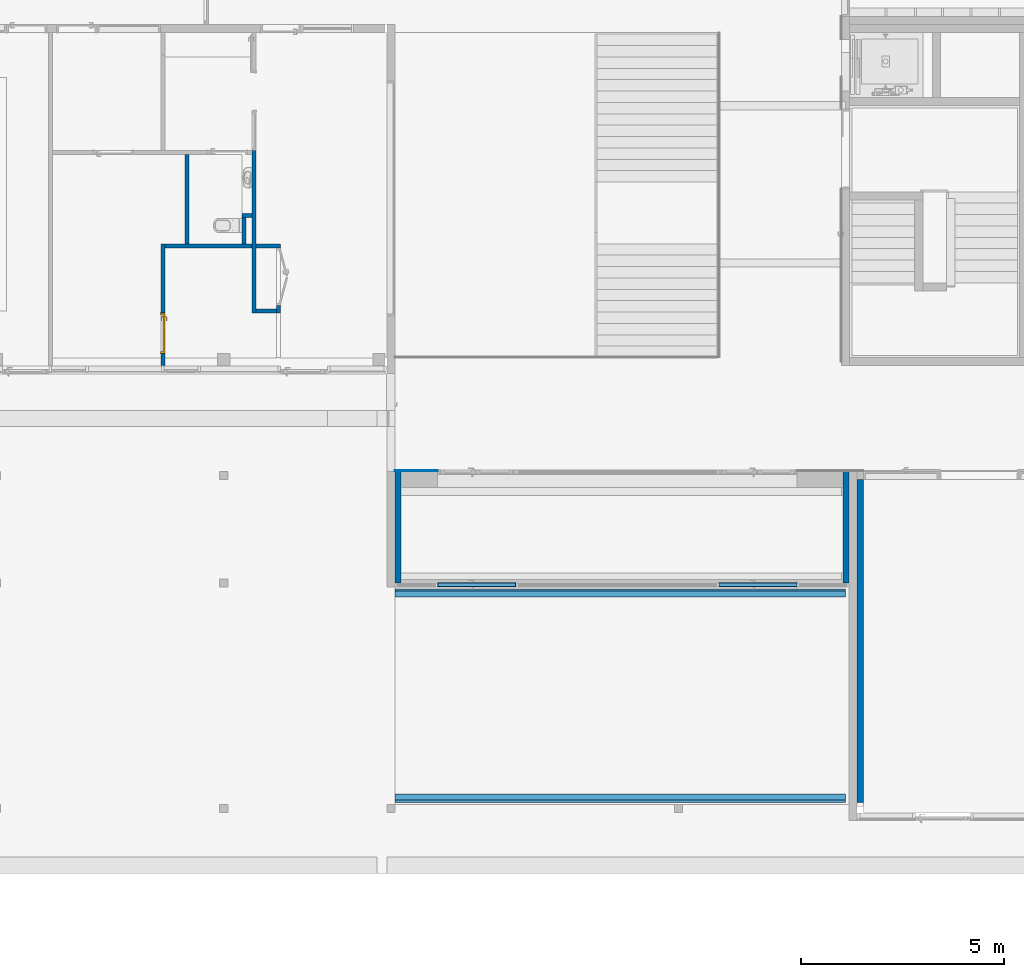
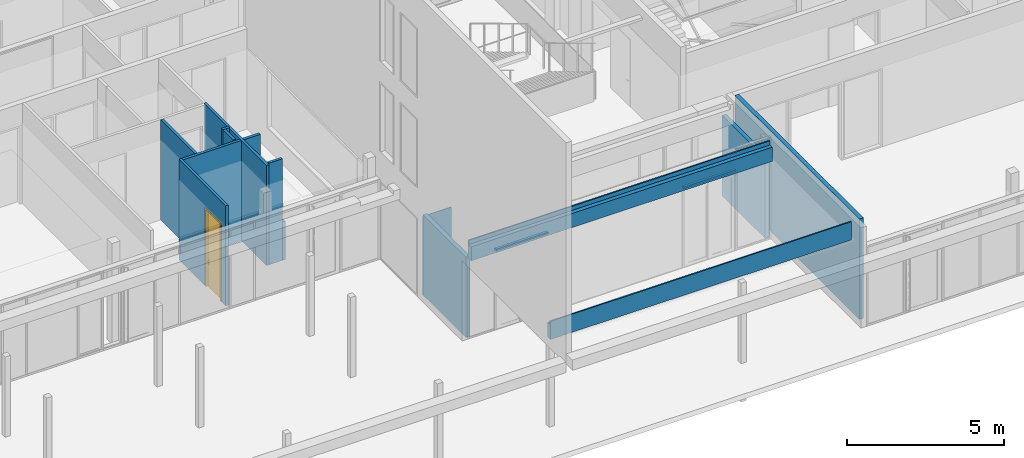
# One storey, part 144 of 240: 15 walls, 1 door, 3 openings.
"""IFC2X3 building model written with IfcOpenShell, lengths in centimetres."""

from ifc_helpers import new_model, entity, si_unit, converted_unit, derived_unit, direction, frame, frame_2d, origin, place, context, subcontext, project, spatial, polyline, rectangle, extrude, clip, bounded_halfspace, faceted_brep, source, transform, mapped, material, material_list, layer, layer_set, layer_usage, type_object, type_shapes, element, fill, save


model = new_model("IFC2X3")

# Units and contexts
model_context = context("Model", 3, precision=0.001, world=origin(), true_north=direction((6.12303176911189e-17, 1.0)))
body_context = subcontext(model_context, "Body", "Model", "MODEL_VIEW")
ifc_project = project(units=[si_unit("LENGTHUNIT", "METRE", prefix="CENTI"), si_unit("AREAUNIT", "SQUARE_METRE"), si_unit("VOLUMEUNIT", "CUBIC_METRE"), converted_unit("PLANEANGLEUNIT", "DEGREE", entity("IfcRatioMeasure", 0.0174532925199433), si_unit("PLANEANGLEUNIT", "RADIAN"), dimensions=[0, 0, 0, 0, 0, 0, 0]), si_unit("MASSUNIT", "GRAM", prefix="KILO"), derived_unit("MASSDENSITYUNIT", [(si_unit("MASSUNIT", "GRAM", prefix="KILO"), 1), (si_unit("LENGTHUNIT", "METRE"), -3)]), si_unit("TIMEUNIT", "SECOND"), si_unit("FREQUENCYUNIT", "HERTZ"), si_unit("THERMODYNAMICTEMPERATUREUNIT", "DEGREE_CELSIUS"), derived_unit("THERMALTRANSMITTANCEUNIT", [(si_unit("MASSUNIT", "GRAM", prefix="KILO"), 1), (si_unit("THERMODYNAMICTEMPERATUREUNIT", "KELVIN"), -1), (si_unit("TIMEUNIT", "SECOND"), -3)]), derived_unit("VOLUMETRICFLOWRATEUNIT", [(si_unit("LENGTHUNIT", "METRE"), 3), (si_unit("TIMEUNIT", "SECOND"), -1)]), si_unit("ELECTRICCURRENTUNIT", "AMPERE"), si_unit("ELECTRICVOLTAGEUNIT", "VOLT"), si_unit("POWERUNIT", "WATT"), si_unit("FORCEUNIT", "NEWTON", prefix="KILO"), si_unit("ILLUMINANCEUNIT", "LUX"), si_unit("LUMINOUSFLUXUNIT", "LUMEN"), si_unit("LUMINOUSINTENSITYUNIT", "CANDELA"), derived_unit("USERDEFINED", [(si_unit("MASSUNIT", "GRAM", prefix="KILO"), -1), (si_unit("LENGTHUNIT", "METRE"), -2), (si_unit("TIMEUNIT", "SECOND"), 3), (si_unit("LUMINOUSFLUXUNIT", "LUMEN"), 1)]), derived_unit("LINEARVELOCITYUNIT", [(si_unit("LENGTHUNIT", "METRE"), 1), (si_unit("TIMEUNIT", "SECOND"), -1)]), si_unit("PRESSUREUNIT", "PASCAL"), derived_unit("USERDEFINED", [(si_unit("LENGTHUNIT", "METRE"), -2), (si_unit("MASSUNIT", "GRAM", prefix="KILO"), 1), (si_unit("TIMEUNIT", "SECOND"), -2)])], contexts=[model_context])

# Site, building, storey
site_placement = place(None, frame((-2781.94577612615, 7442.24238424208, 0.0)))
site = spatial("IfcSite", under=ifc_project, at=site_placement, Name="Default", CompositionType="ELEMENT")
building_placement = place(site_placement, origin())
building = spatial("IfcBuilding", under=site, at=building_placement, CompositionType="ELEMENT")
storey_placement = place(building_placement, origin())
storey = spatial("IfcBuildingStorey", under=building, at=storey_placement, Name="N00 - COO", CompositionType="ELEMENT", Elevation=0.0)

# Walls
ifc_material_1 = material(Name="00 - Isolant")
ifc_layer_1 = layer(ifc_material_1, 14.0)
ifc_material_2 = material(Name="01 - Enduit/Plâtre")
ifc_layer_2 = layer(ifc_material_2, 1.3)
ifc_layer_set_1 = layer_set([ifc_layer_1, ifc_layer_2], Name="Mur de base:04 - Parement -  isolant 14 cm + BA13")
ifc_layer_usage_1 = layer_usage(ifc_layer_set_1, "AXIS2", "POSITIVE", -7.65)
wall_type_1 = type_object("IfcWallType", Name="Mur de base:04 - Parement -  isolant 14 cm + BA13", PredefinedType="STANDARD", material=ifc_layer_set_1)
wall_1_placement = place(building_placement, frame((-3621.84987968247, -2210.15656731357, 0.0), z_axis=(0.0, 0.0, 1.0), x_axis=(0.0, -1.0, 0.0)))
element("IfcWallStandardCase", 1, at=wall_1_placement, inside=storey, type_object=wall_type_1, material=ifc_layer_usage_1, Name="Mur de base:04 - Parement -  isolant 14 cm + BA13", ObjectType="Mur de base:04 - Parement -  isolant 14 cm + BA13", context=body_context, shape_type="Clipping", body=[
    clip(extrude(rectangle(XDim=795.156932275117, YDim=15.3, at=frame_2d((397.578466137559, -1.19904086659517e-14), x_axis=(-1.0, 0.0))), origin(), (0.0, 0.0, 1.0), 391.0), bounded_halfspace(frame((0.0, -7.64999999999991, 391.0), z_axis=(0.0, 0.0, -1.0), x_axis=(-1.0, 0.0, 0.0)), True, frame((0.0, -7.64999999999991, 391.0)), polyline([(0.0, 0.0), (795.156932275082, 0.0), (795.156932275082, 15.3), (0.0, 15.3), (0.0, 0.0)]))),
])
ifc_material_list_1 = material_list([ifc_material_2, ifc_material_1, ifc_material_2])
ifc_layer_3 = layer(ifc_material_2, 1.3)
ifc_layer_4 = layer(ifc_material_1, 7.4)
ifc_layer_5 = layer(ifc_material_2, 1.3)
ifc_layer_set_2 = layer_set([ifc_layer_3, ifc_layer_4, ifc_layer_5], Name="Mur de base:06 - cloisons - Ba13 10cm")
wall_type_2 = type_object("IfcWallType", Name="Mur de base:06 - cloisons - Ba13 10cm", PredefinedType="STANDARD", material=ifc_layer_set_2)
wall_2_placement = place(building_placement, frame((-3777.26283441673, -2470.15656731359, 306.0), z_axis=(0.0, 0.0, 1.0), x_axis=(-1.0, 0.0, 0.0)))
element("IfcWall", 2, at=wall_2_placement, inside=storey, type_object=wall_type_2, material=ifc_material_list_1, Name="Mur de base:06 - cloisons - Ba13 10cm", ObjectType="Mur de base:06 - cloisons - Ba13 10cm", context=body_context, shape_type="SweptSolid", body=[
    extrude(rectangle(XDim=9.99999999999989, YDim=192.737045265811, at=frame_2d((0.0, 2.20268248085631e-13), x_axis=(1.0, 0.0))), frame((96.368522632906, 0.0, 0.0), z_axis=(0.0, 0.0, 1.0), x_axis=(0.0, 1.0, 0.0)), (0.0, 0.0, 1.0), 6.99999999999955),
    extrude(rectangle(XDim=9.99999999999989, YDim=192.73704526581, at=frame_2d((0.0, -4.33431068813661e-13), x_axis=(1.0, 0.0))), frame((789.105567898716, 0.0, 0.0), z_axis=(0.0, 0.0, 1.0), x_axis=(0.0, 1.0, 0.0)), (0.0, 0.0, 1.0), 6.99999999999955),
])

# Wall, opening, door
ifc_layer_usage_2 = layer_usage(ifc_layer_set_2, "AXIS2", "NEGATIVE", 5.0)
wall_3_placement = place(building_placement, frame((-5339.49987760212, -1930.07903364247, 0.0), z_axis=(0.0, 0.0, 1.0), x_axis=(0.0, 1.0, 0.0)))
wall_3 = element("IfcWallStandardCase", 3, at=wall_3_placement, inside=storey, type_object=wall_type_2, material=ifc_layer_usage_2, Name="Mur de base:06 - cloisons - Ba13 10cm", ObjectType="Mur de base:06 - cloisons - Ba13 10cm", context=body_context, shape_type="Clipping", body=[
    clip(extrude(rectangle(XDim=299.999999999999, YDim=9.99999999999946, at=frame_2d((150.0, 0.0), x_axis=(-1.0, 0.0))), origin(), (0.0, 0.0, 1.0), 391.0), bounded_halfspace(frame((300.0, -5.0, 391.0), z_axis=(0.0, 0.0, -1.0), x_axis=(1.0, 0.0, 0.0)), True, frame((300.0, -5.0, 391.0)), polyline([(0.0, 0.0), (0.0, 10.0), (-275.0, 10.0), (-275.0, 0.0), (-10.0, 0.0), (0.0, 0.0)]))),
])
opening_1_placement = place(wall_3_placement, frame((130.0, 5.0, 0.0)))
opening_1 = element("IfcOpeningElement", 4, at=opening_1_placement, cuts=wall_3, Name="Int. Simple:PV (0.93m x 3.00m):1", ObjectType="Opening", context=body_context, shape_type="SweptSolid", body=[
    extrude(rectangle(XDim=304.500000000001, YDim=99.9999999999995, at=frame_2d((152.250000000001, 49.9999999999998), x_axis=(1.0, 0.0))), frame((0.0, 0.0, 0.0), z_axis=(0.0, -1.0, 0.0), x_axis=(0.0, 0.0, 1.0)), (0.0, 0.0, 1.0), 10.0),
])
ifc_material_3 = material(Name="Finition Peinture - Blanc satiné")
ifc_material_4 = material(Name="Bois - Panneau de porte")
ifc_material_5 = material(Name="Bois - Cadre de porte")
ifc_material_list_2 = material_list([ifc_material_3, ifc_material_4, ifc_material_5])
ifc_material_list_3 = material_list([ifc_material_3, ifc_material_4, ifc_material_5])
door_style = type_object("IfcDoorStyle", Name="PV (0.93m x 3.00m)", ConstructionType="NOTDEFINED", OperationType="SINGLE_SWING_RIGHT", ParameterTakesPrecedence=False, Sizeable=False, material=ifc_material_list_3)
shared_shape = source(origin(), body_context, "Body", "Brep", [
    faceted_brep([(99.5000000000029, -0.500000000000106, 87.0), (99.5000000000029, -0.500000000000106, 108.0), (98.535276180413, -0.500000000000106, 108.399601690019), (97.5000000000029, -0.500000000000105, 108.535898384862), (96.4647238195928, -0.500000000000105, 108.399601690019), (95.500000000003, -0.500000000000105, 108.0), (95.5000000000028, -0.500000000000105, 87.0), (96.4647238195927, -0.500000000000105, 86.6003983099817), (97.5000000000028, -0.500000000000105, 86.464101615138), (98.5352761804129, -0.500000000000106, 86.6003983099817), (99.5000000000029, 0.0, 108.0), (99.5000000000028, 0.0, 87.0), (98.5352761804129, 0.0, 86.6003983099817), (97.5000000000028, 0.0, 86.464101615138), (96.4647238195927, 0.0, 86.6003983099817), (95.5000000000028, 0.0, 87.0), (95.5000000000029, 0.0, 108.0), (96.4647238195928, 0.0, 108.399601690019), (97.5000000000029, 0.0, 108.535898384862), (98.535276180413, 0.0, 108.399601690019)], [[[0, 1, 2, 3, 4, 5, 6, 7, 8, 9]], [[10, 11, 12, 13, 14, 15, 16, 17, 18, 19]], [[9, 12, 11, 0]], [[8, 13, 12, 9]], [[7, 14, 13, 8]], [[7, 6, 15, 14]], [[15, 6, 5, 16]], [[4, 17, 16, 5]], [[3, 18, 17, 4]], [[2, 19, 18, 3]], [[2, 1, 10, 19]], [[11, 10, 1, 0]]]),
    faceted_brep([(99.5000000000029, 4.0, 87.0), (99.5000000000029, 4.0, 108.0), (98.535276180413, 4.0, 108.399601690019), (97.5000000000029, 4.0, 108.535898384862), (96.4647238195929, 4.0, 108.399601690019), (95.500000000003, 4.0, 108.0), (95.5000000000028, 4.0, 87.0), (96.4647238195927, 4.0, 86.6003983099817), (97.5000000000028, 4.0, 86.464101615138), (98.5352761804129, 4.0, 86.6003983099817), (97.5000000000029, 4.49999999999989, 108.535898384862), (98.535276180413, 4.49999999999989, 108.399601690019), (99.5000000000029, 4.49999999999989, 108.0), (99.5000000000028, 4.49999999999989, 87.0), (98.5352761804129, 4.49999999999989, 86.6003983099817), (97.5000000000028, 4.49999999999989, 86.464101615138), (96.4647238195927, 4.49999999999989, 86.6003983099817), (95.5000000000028, 4.49999999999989, 87.0), (95.500000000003, 4.49999999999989, 108.0), (96.4647238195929, 4.49999999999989, 108.399601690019)], [[[0, 1, 2, 3, 4, 5, 6, 7, 8, 9]], [[10, 11, 12, 13, 14, 15, 16, 17, 18, 19]], [[4, 19, 18, 5]], [[3, 10, 19, 4]], [[2, 11, 10, 3]], [[2, 1, 12, 11]], [[13, 12, 1, 0]], [[9, 14, 13, 0]], [[8, 15, 14, 9]], [[7, 16, 15, 8]], [[7, 6, 17, 16]], [[17, 6, 5, 18]]]),
    faceted_brep([(97.2974701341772, -0.50000000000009, 100.778044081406), (97.7025298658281, -0.500000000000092, 100.778044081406), (98.1000000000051, -0.500000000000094, 100.699999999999), (98.100000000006, -0.500000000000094, 99.2999999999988), (97.7025298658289, -0.500000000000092, 99.221955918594), (97.297470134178, -0.50000000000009, 99.2219559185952), (96.9000000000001, -0.500000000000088, 99.3000000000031), (96.9000000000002, -0.500000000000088, 100.7), (97.7025298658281, -3.10045754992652, 100.778044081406), (98.1000000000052, -3.26509507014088, 100.7), (97.2974701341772, -2.93267631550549, 100.778044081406), (95.9298602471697, -4.30028620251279, 100.778044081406), (96.0976414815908, -4.70534593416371, 100.778044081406), (96.9000000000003, -2.76803879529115, 100.7), (96.9000000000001, -2.76803879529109, 99.3000000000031), (97.297470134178, -2.93267631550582, 99.2219559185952), (97.7025298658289, -3.10045754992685, 99.221955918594), (96.0976414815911, -4.70534593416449, 99.221955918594), (95.9298602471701, -4.30028620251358, 99.2219559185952), (98.100000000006, -3.26509507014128, 99.2999999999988), (96.2622790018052, -5.10281606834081, 100.7), (95.7652227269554, -3.90281606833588, 100.7), (95.7652227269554, -3.90281606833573, 99.3000000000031), (96.2622790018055, -5.10281606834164, 99.2999999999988), (87.4981359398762, -5.10281606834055, 100.7), (87.4981359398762, -4.70534593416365, 100.778044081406), (87.4981359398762, -4.30028620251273, 100.778044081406), (87.4981359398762, -3.90281606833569, 100.699999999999), (87.4981359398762, -3.90281606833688, 99.3000000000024), (87.4981359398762, -4.30028620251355, 99.2219559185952), (87.4981359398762, -4.70534593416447, 99.221955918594), (87.4981359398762, -5.10281606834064, 99.2999999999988), (91.7139980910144, -4.5028160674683, 100.78786867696), (92.2692302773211, -5.1028160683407, 100.7), (91.6316793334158, -3.9028160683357, 100.7), (91.631679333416, -3.9028160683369, 99.3000000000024), (91.7139981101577, -4.50281607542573, 99.2121313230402), (92.2692310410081, -5.10281606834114, 99.2999999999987)], [[[0, 1, 2, 3, 4, 5, 6, 7]], [[2, 1, 8, 9]], [[1, 0, 10, 11, 12, 8]], [[0, 7, 13, 10]], [[14, 13, 7, 6]], [[5, 15, 14, 6]], [[5, 4, 16, 17, 18, 15]], [[3, 19, 16, 4]], [[9, 19, 3, 2]], [[9, 8, 12, 20]], [[10, 13, 21, 11]], [[22, 21, 13, 14]], [[14, 15, 18, 22]], [[16, 19, 23, 17]], [[20, 23, 19, 9]], [[24, 25, 26, 27, 28, 29, 30, 31]], [[32, 25, 33]], [[33, 25, 24]], [[33, 20, 12]], [[11, 34, 32]], [[34, 11, 21]], [[27, 26, 34]], [[32, 26, 25]], [[32, 34, 26]], [[32, 33, 12]], [[11, 32, 12]], [[21, 22, 35, 28, 27, 34]], [[36, 29, 35]], [[30, 36, 37]], [[18, 35, 22]], [[29, 28, 35]], [[30, 37, 31]], [[37, 17, 23]], [[36, 17, 37]], [[36, 18, 17]], [[36, 35, 18]], [[29, 36, 30]], [[23, 20, 33, 24, 31, 37]]]),
    faceted_brep([(97.2974701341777, 4.49999999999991, 99.2219559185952), (97.7025298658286, 4.49999999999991, 99.221955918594), (98.1000000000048, 4.4999999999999, 99.2999999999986), (98.1000000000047, 4.4999999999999, 100.7), (97.7025298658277, 4.49999999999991, 100.778044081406), (97.2974701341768, 4.49999999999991, 100.778044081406), (96.8999999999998, 4.49999999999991, 100.7), (96.900000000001, 4.49999999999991, 99.3000000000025), (96.8999999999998, 6.7485204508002, 100.7), (96.8999999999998, 6.74852045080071, 99.3000000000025), (97.2974701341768, 6.91315797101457, 100.778044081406), (97.7025298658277, 7.0809392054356, 100.778044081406), (96.0838906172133, 8.69957845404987, 100.778044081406), (95.9161093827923, 8.29451872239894, 100.778044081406), (98.1000000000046, 7.24557672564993, 100.7), (98.1000000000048, 7.24557672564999, 99.2999999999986), (97.7025298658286, 7.08093920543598, 99.221955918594), (97.2974701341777, 6.91315797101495, 99.2219559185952), (95.9161093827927, 8.29451872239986, 99.2219559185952), (96.0838906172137, 8.69957845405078, 99.221955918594), (95.751471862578, 7.89704858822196, 100.7), (95.7514718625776, 7.89704858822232, 99.3000000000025), (96.2485281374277, 9.09704858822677, 100.7), (96.2485281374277, 9.09704858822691, 99.2999999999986), (87.4954216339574, 8.29451872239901, 100.778044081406), (87.4954216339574, 8.69957845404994, 100.778044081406), (87.4954216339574, 9.09704858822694, 100.7), (87.4954216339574, 9.09704858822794, 99.2999999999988), (87.4954216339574, 8.6995784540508, 99.221955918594), (87.4954216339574, 8.29451872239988, 99.2219559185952), (87.4954216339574, 7.89704858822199, 99.3000000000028), (87.4954216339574, 7.89704858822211, 100.7), (91.6234467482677, 7.89704858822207, 100.7), (91.6234479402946, 7.89704858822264, 99.3000000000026), (91.7057655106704, 8.49704858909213, 100.78786867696), (92.255479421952, 9.09704858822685, 100.7), (92.2554795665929, 9.09704858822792, 99.2999999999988), (91.7057654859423, 8.49704858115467, 99.2121313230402)], [[[0, 1, 2, 3, 4, 5, 6, 7]], [[8, 9, 7, 6]], [[5, 10, 8, 6]], [[5, 4, 11, 12, 13, 10]], [[3, 14, 11, 4]], [[14, 3, 2, 15]], [[2, 1, 16, 15]], [[1, 0, 17, 18, 19, 16]], [[0, 7, 9, 17]], [[20, 21, 9, 8]], [[8, 10, 13, 20]], [[14, 22, 12, 11]], [[23, 22, 14, 15]], [[15, 16, 19, 23]], [[17, 9, 21, 18]], [[24, 25, 26, 27, 28, 29, 30, 31]], [[21, 20, 32, 31, 30, 33]], [[34, 24, 32]], [[25, 34, 35]], [[13, 32, 20]], [[24, 31, 32]], [[25, 35, 26]], [[35, 12, 22]], [[34, 12, 35]], [[34, 13, 12]], [[34, 32, 13]], [[24, 34, 25]], [[22, 23, 36, 27, 26, 35]], [[37, 28, 36]], [[36, 28, 27]], [[36, 23, 19]], [[18, 33, 37]], [[33, 18, 21]], [[30, 29, 33]], [[37, 29, 28]], [[37, 33, 29]], [[37, 36, 19]], [[18, 37, 19]]]),
    faceted_brep([(103.500000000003, 4.0, 301.0), (103.500000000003, 4.0, 0.0), (10.5000000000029, 4.0, 0.0), (10.5000000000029, 4.0, 301.0), (103.500000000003, 0.0, 301.0), (10.5000000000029, 0.0, 301.0), (10.5000000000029, 0.0, 0.0), (103.500000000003, 0.0, 0.0)], [[[0, 1, 2, 3]], [[4, 5, 6, 7]], [[3, 5, 4, 0]], [[2, 6, 5, 3]], [[1, 7, 6, 2]], [[0, 4, 7, 1]]]),
    faceted_brep([(107.0, 10.0, 0.0), (107.0, 0.0, 0.0), (108.500000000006, 0.0, 0.0), (108.500000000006, -0.500000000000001, 0.0), (103.500000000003, -0.500000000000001, 0.0), (103.500000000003, 4.0, 0.0), (102.0, 4.0, 0.0), (102.0, 10.5000000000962, 0.0), (108.500000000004, 10.5000000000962, 0.0), (108.500000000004, 10.0, 0.0), (108.500000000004, 10.0, 306.0), (5.50000000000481, 10.0, 306.0), (5.50000000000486, 10.0, 0.0), (7.0, 10.0, 0.0), (7.0, 10.0, 304.500000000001), (107.0, 10.0, 304.500000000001), (108.500000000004, 10.5000000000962, 306.0), (102.0, 10.5000000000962, 299.5), (12.0, 10.5000000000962, 299.5), (12.0, 10.5000000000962, 0.0), (5.50000000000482, 10.5000000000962, 0.0), (5.50000000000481, 10.5000000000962, 306.0), (102.0, 4.0, 299.5), (103.500000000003, 4.0, 301.0), (10.5000000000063, 4.0, 301.0), (10.5000000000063, 4.0, 0.0), (12.0, 4.0, 0.0), (12.0, 4.0, 299.5), (103.500000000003, -0.500000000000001, 301.0), (108.500000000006, -0.500000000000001, 306.0), (5.5000000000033, -0.500000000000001, 306.0), (5.50000000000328, -0.500000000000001, 0.0), (10.5000000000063, -0.500000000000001, 0.0), (10.5000000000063, -0.500000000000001, 301.0), (108.500000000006, 0.0, 306.0), (107.0, 0.0, 304.500000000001), (7.0, 0.0, 304.500000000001), (7.0, 0.0, 0.0), (5.5000000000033, 0.0, 0.0), (5.50000000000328, 0.0, 306.0)], [[[0, 1, 2, 3, 4, 5, 6, 7, 8, 9]], [[9, 10, 11, 12, 13, 14, 15, 0]], [[8, 16, 10, 9]], [[7, 17, 18, 19, 20, 21, 16, 8]], [[7, 6, 22, 17]], [[5, 23, 24, 25, 26, 27, 22, 6]], [[5, 4, 28, 23]], [[3, 29, 30, 31, 32, 33, 28, 4]], [[2, 34, 29, 3]], [[1, 35, 36, 37, 38, 39, 34, 2]], [[0, 15, 35, 1]], [[14, 13, 37, 36]], [[13, 12, 20, 19, 26, 25, 32, 31, 38, 37]], [[21, 20, 12, 11]], [[27, 26, 19, 18]], [[33, 32, 25, 24]], [[39, 38, 31, 30]], [[15, 14, 36, 35]], [[16, 21, 11, 10]], [[22, 27, 18, 17]], [[28, 33, 24, 23]], [[34, 39, 30, 29]]]),
])
type_shapes(door_style, [shared_shape])
door_placement = place(opening_1_placement, frame((-107.0, -10.0, 0.0)))
door = element("IfcDoor", 5, at=door_placement, inside=storey, type_object=door_style, material=ifc_material_list_2, Name="Int. Simple:PV (0.93m x 3.00m)", ObjectType="Int. Simple:PV (0.93m x 3.00m)", OverallHeight=304.500000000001, OverallWidth=99.9999999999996, context=body_context, shape_type="MappedRepresentation", body=[
    mapped(shared_shape, transform((0.0, 0.0, 0.0), scale=1.0)),
])
fill(opening_1, door)

# Walls
wall_4_placement = place(building_placement, frame((-5334.49987760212, -1635.07903364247, 0.0)))
element("IfcWall", 6, at=wall_4_placement, inside=storey, type_object=wall_type_2, Name="Mur de base:06 - cloisons - Ba13 10cm", ObjectType="Mur de base:06 - cloisons - Ba13 10cm", context=body_context, shape_type="SweptSolid", body=[
    extrude(rectangle(XDim=215.0, YDim=10.0000000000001, at=frame_2d((-8.75011494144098, -2.50000000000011), x_axis=(1.0, 0.0))), frame((116.250114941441, 2.49999999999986, 0.0)), (0.0, 0.0, 1.0), 391.0),
    extrude(rectangle(XDim=60.0000000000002, YDim=10.0000000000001, at=frame_2d((0.0, -2.16715534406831e-13), x_axis=(1.0, 0.0))), frame((255.0, 0.0, 0.0), z_axis=(0.0, 0.0, 1.0), x_axis=(-1.0, 0.0, 0.0)), (0.0, 0.0, 1.0), 391.0),
])
ifc_layer_usage_3 = layer_usage(ifc_layer_set_2, "AXIS2", "NEGATIVE", 5.0)
wall_5_placement = place(building_placement, frame((-5279.49987760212, -1630.07903364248, 0.0), z_axis=(0.0, 0.0, 1.0), x_axis=(0.0, 1.0, 0.0)))
element("IfcWallStandardCase", 7, at=wall_5_placement, inside=storey, type_object=wall_type_2, material=ifc_layer_usage_3, Name="Mur de base:06 - cloisons - Ba13 10cm", ObjectType="Mur de base:06 - cloisons - Ba13 10cm", context=body_context, shape_type="Clipping", body=[
    clip(extrude(rectangle(XDim=220.079033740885, YDim=9.99999999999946, at=frame_2d((110.039516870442, -9.32587340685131e-15), x_axis=(-1.0, 0.0))), origin(), (0.0, 0.0, 1.0), 391.0), bounded_halfspace(frame((0.0, -5.0, 391.0), z_axis=(0.0, 0.0, -1.0), x_axis=(1.0, 0.0, 0.0)), True, frame((0.0, -5.0, 391.0)), polyline([(0.0, 0.0), (220.079033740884, 0.0), (220.079033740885, 10.0), (0.0, 10.0), (0.0, 0.0)]))),
])

# Wall, opening
ifc_layer_usage_4 = layer_usage(ifc_layer_set_2, "AXIS2", "NEGATIVE", 5.0)
wall_6_placement = place(building_placement, frame((-5114.49987760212, -1400.0, 0.0), z_axis=(0.0, 0.0, 1.0), x_axis=(0.0, -1.0, 0.0)))
wall_6 = element("IfcWallStandardCase", 8, at=wall_6_placement, inside=storey, type_object=wall_type_2, material=ifc_layer_usage_4, Name="Mur de base:06 - cloisons - Ba13 10cm", ObjectType="Mur de base:06 - cloisons - Ba13 10cm", context=body_context, shape_type="Clipping", body=[
    clip(extrude(rectangle(XDim=400.079033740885, YDim=9.99999999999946, at=frame_2d((200.039516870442, -2.1627144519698e-13), x_axis=(-1.0, 0.0))), origin(), (0.0, 0.0, 1.0), 391.0), bounded_halfspace(frame((0.0, -5.0, 391.0), z_axis=(0.0, 0.0, -1.0), x_axis=(-1.0, 0.0, 0.0)), True, frame((0.0, -5.0, 391.0)), polyline([(0.0, 0.0), (10.0, 0.0), (230.079033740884, 0.0), (240.079033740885, 0.0), (400.079033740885, 0.0), (400.079033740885, 10.0), (240.079033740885, 10.0), (230.079033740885, 10.0), (0.0, 10.0), (0.0, 0.0)]))),
])
opening_2_placement = place(wall_6_placement, origin())
element("IfcOpeningElement", 9, at=opening_2_placement, cuts=wall_6, Name="Mur de base:06 - cloisons - Ba13 10cm", ObjectType="Opening", context=body_context, shape_type="SweptSolid", body=[
    extrude(rectangle(XDim=170.0, YDim=94.9999999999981, at=frame_2d((0.0, 1.06581410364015e-13), x_axis=(1.0, 0.0))), frame((-47.4999999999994, -147.400000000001, 165.0), z_axis=(0.0, 1.0, 0.0), x_axis=(0.0, 0.0, 1.0)), (0.0, 0.0, 1.0), 304.8),
])

ifc_layer_usage_5 = layer_usage(ifc_layer_set_2, "AXIS2", "NEGATIVE", 5.0)
wall_7_placement = place(building_placement, frame((-5054.49987760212, -1782.07903364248, 0.0), z_axis=(0.0, 0.0, 1.0), x_axis=(0.0, -1.0, 0.0)))
wall_7 = element("IfcWallStandardCase", 10, at=wall_7_placement, inside=storey, type_object=wall_type_2, material=ifc_layer_usage_5, Name="Mur de base:06 - cloisons - Ba13 10cm", ObjectType="Mur de base:06 - cloisons - Ba13 10cm", context=body_context, shape_type="SweptSolid", body=[
    extrude(rectangle(XDim=18.0, YDim=10.0000000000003, at=frame_2d((-0.200000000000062, -1.00000000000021), x_axis=(1.0, 0.0))), frame((8.79999999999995, -1.0, 0.0), z_axis=(0.0, 0.0, 1.0), x_axis=(-1.0, 0.0, 0.0)), (0.0, 0.0, 1.0), 150.0),
])
opening_3_placement = place(wall_7_placement, frame((-142.0, -5.0, 0.0)))
element("IfcOpeningElement", 11, at=opening_3_placement, cuts=wall_7, Name="Int. Double:PP Placard (1.35m x 2.04m):1", ObjectType="Opening", context=body_context, shape_type="SweptSolid", body=[
    extrude(rectangle(XDim=207.500000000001, YDim=142.0, at=frame_2d((103.750000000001, 71.0000000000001), x_axis=(1.0, 0.0))), frame((0.0, 0.0, 0.0), z_axis=(0.0, 1.0, 0.0), x_axis=(0.0, 0.0, 1.0)), (0.0, 0.0, 1.0), 10.0),
])

# Walls
ifc_layer_usage_6 = layer_usage(ifc_layer_set_2, "AXIS2", "NEGATIVE", 5.0)
wall_8_placement = place(building_placement, frame((-5119.49987760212, -1560.07903231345, 0.0), z_axis=(0.0, 0.0, 1.0), x_axis=(-1.0, 0.0, 0.0)))
element("IfcWallStandardCase", 12, at=wall_8_placement, inside=storey, type_object=wall_type_2, material=ifc_layer_usage_6, Name="Mur de base:06 - cloisons - Ba13 10cm", ObjectType="Mur de base:06 - cloisons - Ba13 10cm", context=body_context, shape_type="SweptSolid", body=[
    extrude(rectangle(XDim=24.9995402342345, YDim=9.99999999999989, at=frame_2d((12.4997701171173, 0.0), x_axis=(-1.0, 0.0))), origin(), (0.0, 0.0, 1.0), 396.0),
])
ifc_layer_usage_7 = layer_usage(ifc_layer_set_2, "AXIS2", "NEGATIVE", 5.0)
wall_9_placement = place(building_placement, frame((-5139.49941783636, -1565.07903231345, 0.0), z_axis=(0.0, 0.0, 1.0), x_axis=(0.0, -1.0, 0.0)))
element("IfcWallStandardCase", 13, at=wall_9_placement, inside=storey, type_object=wall_type_2, material=ifc_layer_usage_7, Name="Mur de base:06 - cloisons - Ba13 10cm", ObjectType="Mur de base:06 - cloisons - Ba13 10cm", context=body_context, shape_type="SweptSolid", body=[
    extrude(rectangle(XDim=65.0000013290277, YDim=9.99999999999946, at=frame_2d((32.5000006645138, 0.0), x_axis=(-1.0, 0.0))), origin(), (0.0, 0.0, 1.0), 396.0),
])
ifc_layer_usage_8 = layer_usage(ifc_layer_set_2, "AXIS2", "NEGATIVE", 5.0)
wall_10_placement = place(building_placement, frame((-5059.49987760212, -1795.07903364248, 0.0), z_axis=(0.0, 0.0, 1.0), x_axis=(-1.0, 0.0, 0.0)))
element("IfcWallStandardCase", 14, at=wall_10_placement, inside=storey, type_object=wall_type_2, material=ifc_layer_usage_8, Name="Mur de base:06 - cloisons - Ba13 10cm", ObjectType="Mur de base:06 - cloisons - Ba13 10cm", context=body_context, shape_type="SweptSolid", body=[
    extrude(rectangle(XDim=49.9999999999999, YDim=9.99999999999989, at=frame_2d((24.9999999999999, -4.04121180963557e-14), x_axis=(-1.0, 0.0))), origin(), (0.0, 0.0, 1.0), 396.0),
])
ifc_material_6 = material(Name="Pin")
ifc_layer_6 = layer(ifc_material_6, 2.0)
ifc_layer_set_3 = layer_set([ifc_layer_6], Name="Mur de base:06 - habillage bois collée 2cm")
ifc_layer_usage_9 = layer_usage(ifc_layer_set_3, "AXIS2", "NEGATIVE", 1.0)
wall_type_3 = type_object("IfcWallType", Name="Mur de base:06 - habillage bois collée 2cm", PredefinedType="STANDARD", material=ifc_layer_set_3)
wall_11_placement = place(building_placement, frame((-4662.75692494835, -2189.15656731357, 0.0), z_axis=(0.0, 0.0, 1.0), x_axis=(-1.0, 0.0, 0.0)))
element("IfcWallStandardCase", 15, at=wall_11_placement, inside=storey, type_object=wall_type_3, material=ifc_layer_usage_9, Name="Mur de base:06 - habillage bois collée 2cm", ObjectType="Mur de base:06 - habillage bois collée 2cm", context=body_context, shape_type="SweptSolid", body=[
    extrude(rectangle(XDim=105.242952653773, YDim=2.00000000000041, at=frame_2d((52.6214763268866, 1.33226762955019e-15), x_axis=(-1.0, 0.0))), origin(), (0.0, 0.0, 1.0), 306.0),
])
ifc_layer_7 = layer(ifc_material_2, 1.3)
ifc_layer_8 = layer(ifc_material_1, 14.0)
ifc_layer_set_4 = layer_set([ifc_layer_7, ifc_layer_8], Name="Mur de base:04 - Parement - ITI 14cm")
ifc_layer_usage_10 = layer_usage(ifc_layer_set_4, "AXIS2", "NEGATIVE", 7.65)
wall_type_4 = type_object("IfcWallType", Name="Mur de base:04 - Parement - ITI 14cm", PredefinedType="STANDARD", material=ifc_layer_set_4)
wall_12_placement = place(building_placement, frame((-4760.34987760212, -2190.15656731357, 0.0), z_axis=(0.0, 0.0, 1.0), x_axis=(0.0, -1.0, 0.0)))
element("IfcWallStandardCase", 16, at=wall_12_placement, inside=storey, type_object=wall_type_4, material=ifc_layer_usage_10, Name="Mur de base:04 - Parement - ITI 14cm", ObjectType="Mur de base:04 - Parement - ITI 14cm", context=body_context, shape_type="SweptSolid", body=[
    extrude(rectangle(XDim=275.000000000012, YDim=15.3, at=frame_2d((137.500000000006, 0.0), x_axis=(-1.0, 0.0))), origin(), (0.0, 0.0, 1.0), 313.0),
])
ifc_layer_usage_11 = layer_usage(ifc_layer_set_4, "AXIS2", "NEGATIVE", 7.65)
wall_13_placement = place(building_placement, frame((-3657.14987968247, -2465.15656731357, 0.0), z_axis=(0.0, 0.0, 1.0), x_axis=(0.0, 1.0, 0.0)))
element("IfcWallStandardCase", 17, at=wall_13_placement, inside=storey, type_object=wall_type_4, material=ifc_layer_usage_11, Name="Mur de base:04 - Parement - ITI 14cm", ObjectType="Mur de base:04 - Parement - ITI 14cm", context=body_context, shape_type="SweptSolid", body=[
    extrude(rectangle(XDim=274.999999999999, YDim=15.3, at=frame_2d((137.5, 0.0), x_axis=(-1.0, 0.0))), origin(), (0.0, 0.0, 1.0), 313.0),
])
ifc_layer_9 = layer(ifc_material_1, 20.0)
ifc_layer_set_5 = layer_set([ifc_layer_9], Name="Mur de base:04 - retour isolation acrotère - ITE 20 cm")
ifc_layer_usage_12 = layer_usage(ifc_layer_set_5, "AXIS2", "NEGATIVE", 10.0)
wall_type_5 = type_object("IfcWallType", Name="Mur de base:04 - retour isolation acrotère - ITE 20 cm", PredefinedType="STANDARD", material=ifc_layer_set_5)
wall_14_placement = place(storey_placement, frame((-4767.99987760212, -2995.31349958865, 320.0)))
element("IfcWallStandardCase", 18, at=wall_14_placement, inside=storey, type_object=wall_type_5, material=ifc_layer_usage_12, Name="Mur de base:04 - retour isolation acrotère - ITE 20 cm", ObjectType="Mur de base:04 - retour isolation acrotère - ITE 20 cm", context=body_context, shape_type="Clipping", body=[
    clip(clip(extrude(rectangle(XDim=1109.99999791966, YDim=19.9999999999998, at=frame_2d((554.999998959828, 4.70734562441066e-14), x_axis=(-1.0, 0.0))), origin(), (0.0, 0.0, 1.0), 71.0000000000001), bounded_halfspace(frame((1110.0, -5.0, 55.0), z_axis=(0.0, -1.0, 0.0), x_axis=(0.0, 0.0, 1.0)), True, frame((1110.0, -5.0, 55.0), z_axis=(0.0, -1.0, 0.0), x_axis=(0.0, 0.0, 1.0)), polyline([(0.0, 0.0), (16.0, 0.0), (16.0, 1110.0), (0.0, 1110.0), (0.0, 0.0)]))), bounded_halfspace(frame((0.0, -5.0, 55.0), z_axis=(0.0, 0.0, 1.0), x_axis=(0.0, -1.0, 0.0)), False, frame((0.0, -5.0, 55.0), z_axis=(0.0, 0.0, 1.0), x_axis=(0.0, -1.0, 0.0)), polyline([(0.0, 0.0), (0.0, 1110.0), (-15.0, 1110.0), (-15.0, 0.0), (0.0, 0.0)]))),
])
ifc_layer_usage_13 = layer_usage(ifc_layer_set_5, "AXIS2", "NEGATIVE", 10.0)
wall_15_placement = place(storey_placement, frame((-4767.99987760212, -2490.15656731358, 320.0)))
element("IfcWallStandardCase", 19, at=wall_15_placement, inside=storey, type_object=wall_type_5, material=ifc_layer_usage_13, Name="Mur de base:04 - retour isolation acrotère - ITE 20 cm", ObjectType="Mur de base:04 - retour isolation acrotère - ITE 20 cm", context=body_context, shape_type="Clipping", body=[
    clip(clip(extrude(rectangle(XDim=1109.99999791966, YDim=19.9999999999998, at=frame_2d((554.999998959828, 4.70734562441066e-14), x_axis=(-1.0, 0.0))), origin(), (0.0, 0.0, 1.0), 71.0000000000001), bounded_halfspace(frame((0.0, 5.0, 55.0), z_axis=(0.0, 1.0, 0.0), x_axis=(0.0, 0.0, 1.0)), True, frame((0.0, 5.0, 55.0), z_axis=(0.0, 1.0, 0.0), x_axis=(0.0, 0.0, 1.0)), polyline([(0.0, 0.0), (16.0, 0.0), (16.0, 1110.0), (0.0, 1110.0), (0.0, 0.0)]))), bounded_halfspace(frame((1110.0, 5.0, 55.0), z_axis=(0.0, 0.0, 1.0), x_axis=(0.0, -1.0, 0.0)), False, frame((1110.0, 5.0, 55.0), z_axis=(0.0, 0.0, 1.0), x_axis=(0.0, -1.0, 0.0)), polyline([(0.0, 0.0), (0.0, -1110.0), (15.0, -1110.0), (15.0, 0.0), (0.0, 0.0)]))),
])

save(model, "model.ifc")
